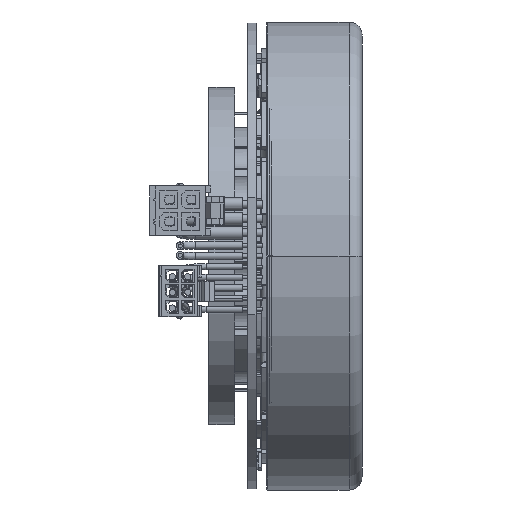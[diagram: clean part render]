
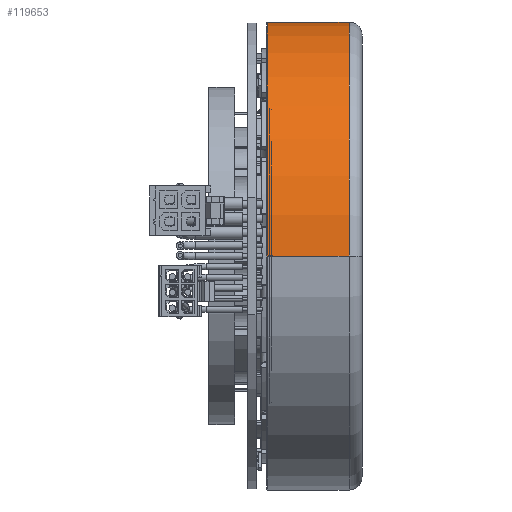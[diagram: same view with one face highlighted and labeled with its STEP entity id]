
A CAD part, front view. The second image highlights one B-rep face of the part: STEP entity #119653.
In plain terms, the highlighted cylindrical face has radius 45 mm (diameter 90 mm), a partial arc.
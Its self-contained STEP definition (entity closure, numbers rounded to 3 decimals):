
#118613=CARTESIAN_POINT('',(11.3,0.,0.));
#118614=DIRECTION('',(1.,0.,0.));
#118615=DIRECTION('',(0.,1.,0.));
#118616=AXIS2_PLACEMENT_3D('',#118613,#118614,#118615);
#118621=DIRECTION('',(1.,0.,0.));
#118622=VECTOR('',#118621,15.7);
#118623=CARTESIAN_POINT('',(11.3,45.,
0.));
#118624=LINE('',#118623,#118622);
#118628=CARTESIAN_POINT('',(27.,0.,0.));
#118629=DIRECTION('',(1.,0.,0.));
#118630=DIRECTION('',(0.,1.,0.));
#118631=AXIS2_PLACEMENT_3D('',#118628,#118629,#118630);
#118636=DIRECTION('',(1.,0.,0.));
#118637=VECTOR('',#118636,15.7);
#118638=CARTESIAN_POINT('',(11.3,-45.,
0.));
#118639=LINE('',#118638,#118637);
#119564=CARTESIAN_POINT('',(27.,45.,0.));
#119565=CARTESIAN_POINT('',(27.,-45.,0.));
#119566=VERTEX_POINT('',#119564);
#119567=VERTEX_POINT('',#119565);
#119568=CARTESIAN_POINT('',(11.3,-45.,0.));
#119569=CARTESIAN_POINT('',(11.3,45.,0.));
#119570=VERTEX_POINT('',#119568);
#119571=VERTEX_POINT('',#119569);
#119639=CARTESIAN_POINT('',(59.249,0.,0.));
#119640=DIRECTION('',(-1.,0.,0.));
#119641=DIRECTION('',(0.,-1.,0.));
#119642=AXIS2_PLACEMENT_3D('',#119639,#119640,#119641);
#119643=CYLINDRICAL_SURFACE('',#119642,45.);
#119644=ORIENTED_EDGE('',*,*,#119621,.F.);
#119646=ORIENTED_EDGE('',*,*,#119645,.T.);
#119648=ORIENTED_EDGE('',*,*,#119647,.T.);
#119650=ORIENTED_EDGE('',*,*,#119649,.F.);
#119651=EDGE_LOOP('',(#119644,#119646,#119648,#119650));
#119652=FACE_OUTER_BOUND('',#119651,.F.);
#119653=ADVANCED_FACE('',(#119652),#119643,.T.);
#118617=CIRCLE('',#118616,45.);
#118632=CIRCLE('',#118631,45.);
#119621=EDGE_CURVE('',#119571,#119570,#118617,.T.);
#119645=EDGE_CURVE('',#119571,#119566,#118624,.T.);
#119647=EDGE_CURVE('',#119566,#119567,#118632,.T.);
#119649=EDGE_CURVE('',#119570,#119567,#118639,.T.);
